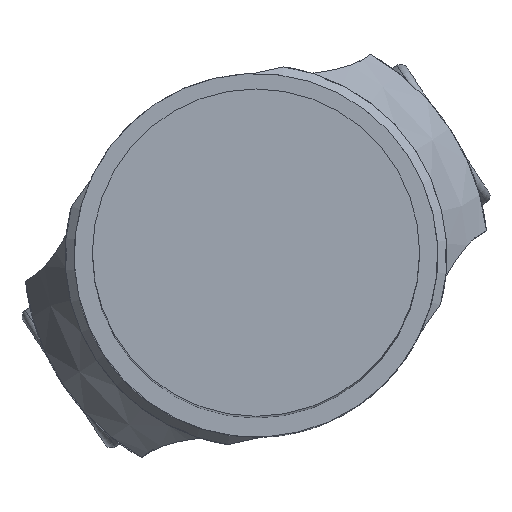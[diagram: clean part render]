
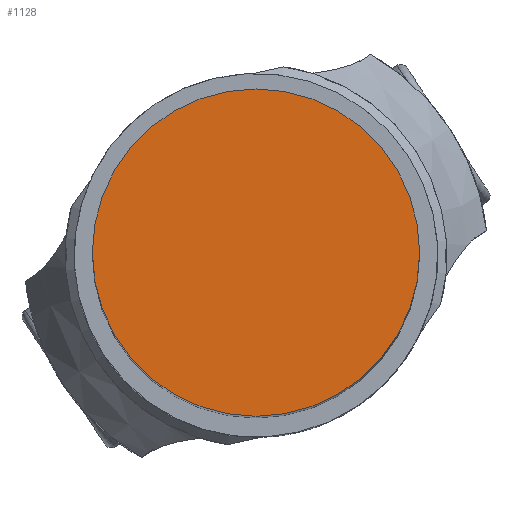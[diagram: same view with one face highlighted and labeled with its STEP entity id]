
A CAD part, top view. The second image highlights one B-rep face of the part: STEP entity #1128.
In plain terms, the highlighted planar face has unit normal (0, 0, 1).
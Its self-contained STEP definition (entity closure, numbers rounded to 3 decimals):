
#184 = EDGE_CURVE ( 'NONE', #1509, #467, #1189, .T. ) ;
#292 = ORIENTED_EDGE ( 'NONE', *, *, #184, .T. ) ;
#401 = AXIS2_PLACEMENT_3D ( 'NONE', #1456, #3050, #3420 ) ;
#443 = CARTESIAN_POINT ( 'NONE',  ( 0., 0., -90. ) ) ;
#467 = VERTEX_POINT ( 'NONE', #1055 ) ;
#687 = EDGE_LOOP ( 'NONE', ( #292, #3308 ) ) ;
#1055 = CARTESIAN_POINT ( 'NONE',  ( 0., -9., -90. ) ) ;
#1059 = DIRECTION ( 'NONE',  ( 0., 0., 1. ) ) ;
#1077 = DIRECTION ( 'NONE',  ( 0., 1., 0. ) ) ;
#1128 = ADVANCED_FACE ( 'NONE', ( #1157 ), #1440, .F. ) ;
#1157 = FACE_OUTER_BOUND ( 'NONE', #687, .T. ) ;
#1189 = CIRCLE ( 'NONE', #1702, 9. ) ;
#1211 = DIRECTION ( 'NONE',  ( 0., 1., 0. ) ) ;
#1406 = CARTESIAN_POINT ( 'NONE',  ( 0., 0., -90. ) ) ;
#1440 = PLANE ( 'NONE',  #401 ) ;
#1448 = CARTESIAN_POINT ( 'NONE',  ( 0., 9., -90. ) ) ;
#1456 = CARTESIAN_POINT ( 'NONE',  ( 0., 0., -90. ) ) ;
#1509 = VERTEX_POINT ( 'NONE', #1448 ) ;
#1702 = AXIS2_PLACEMENT_3D ( 'NONE', #443, #3425, #1211 ) ;
#2626 = EDGE_CURVE ( 'NONE', #467, #1509, #3022, .T. ) ;
#2739 = AXIS2_PLACEMENT_3D ( 'NONE', #1406, #1059, #1077 ) ;
#3022 = CIRCLE ( 'NONE', #2739, 9. ) ;
#3050 = DIRECTION ( 'NONE',  ( 0., 0., -1. ) ) ;
#3308 = ORIENTED_EDGE ( 'NONE', *, *, #2626, .T. ) ;
#3420 = DIRECTION ( 'NONE',  ( 0., -1., 0. ) ) ;
#3425 = DIRECTION ( 'NONE',  ( 0., 0., 1. ) ) ;
